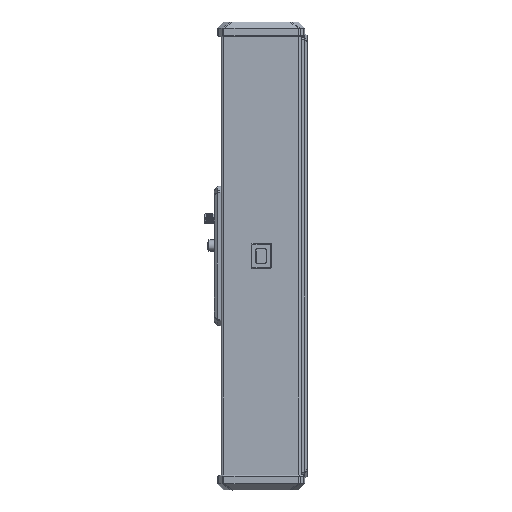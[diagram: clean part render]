
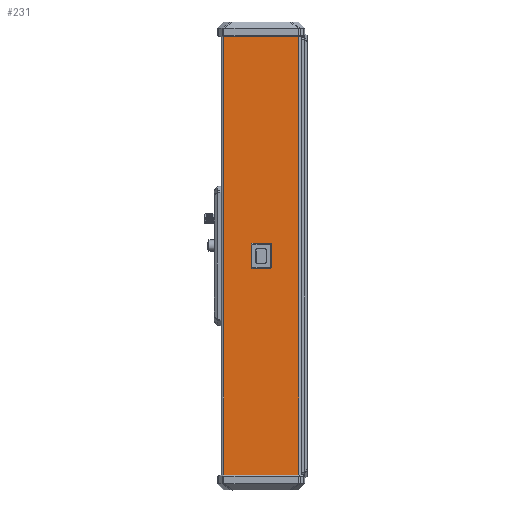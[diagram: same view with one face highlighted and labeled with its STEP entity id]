
A CAD part, top view. The second image highlights one B-rep face of the part: STEP entity #231.
In plain terms, the highlighted planar face has unit normal (0, 0, 1).
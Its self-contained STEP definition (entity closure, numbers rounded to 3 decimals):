
#58=DIRECTION('',(0.,-1.,0.));
#59=VECTOR('',#58,520.);
#60=CARTESIAN_POINT('',(-43.,260.,45.));
#61=LINE('',#60,#59);
#62=DIRECTION('',(-1.,0.,0.));
#63=VECTOR('',#62,86.);
#64=CARTESIAN_POINT('',(43.,-260.,45.));
#65=LINE('',#64,#63);
#66=DIRECTION('',(1.,0.,0.));
#67=VECTOR('',#66,86.);
#68=CARTESIAN_POINT('',(-43.,260.,45.));
#69=LINE('',#68,#67);
#75=DIRECTION('',(0.,1.,0.));
#76=VECTOR('',#75,520.);
#77=CARTESIAN_POINT('',(43.,-260.,45.));
#78=LINE('',#77,#76);
#140=CARTESIAN_POINT('',(43.,-260.,45.));
#142=VERTEX_POINT('',#140);
#154=CARTESIAN_POINT('',(-43.,-260.,45.));
#155=VERTEX_POINT('',#154);
#157=CARTESIAN_POINT('',(43.,260.,45.));
#159=VERTEX_POINT('',#157);
#160=CARTESIAN_POINT('',(-43.,260.,45.));
#161=VERTEX_POINT('',#160);
#217=CARTESIAN_POINT('',(-46.,-260.,45.));
#218=DIRECTION('',(0.,0.,1.));
#219=DIRECTION('',(1.,0.,0.));
#220=AXIS2_PLACEMENT_3D('',#217,#218,#219);
#221=PLANE('',#220);
#223=ORIENTED_EDGE('',*,*,#222,.F.);
#225=ORIENTED_EDGE('',*,*,#224,.T.);
#226=ORIENTED_EDGE('',*,*,#205,.F.);
#228=ORIENTED_EDGE('',*,*,#227,.T.);
#229=EDGE_LOOP('',(#223,#225,#226,#228));
#230=FACE_OUTER_BOUND('',#229,.F.);
#205=EDGE_CURVE('',#161,#155,#61,.T.);
#222=EDGE_CURVE('',#142,#159,#78,.T.);
#224=EDGE_CURVE('',#142,#155,#65,.T.);
#227=EDGE_CURVE('',#161,#159,#69,.T.);
#231=ADVANCED_FACE('',(#230),#221,.T.);
